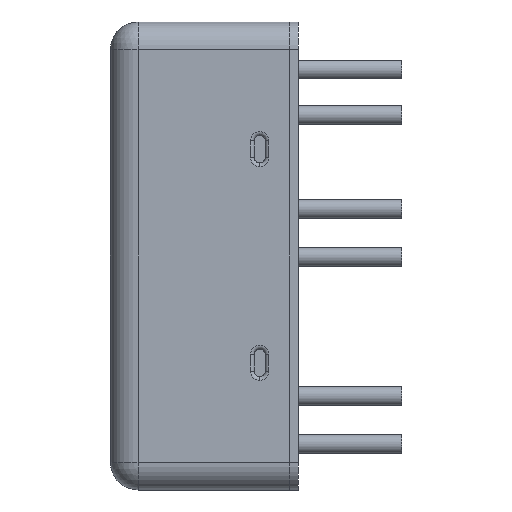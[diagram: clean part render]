
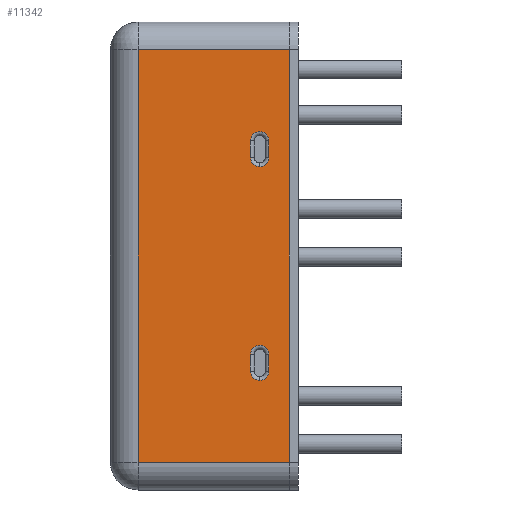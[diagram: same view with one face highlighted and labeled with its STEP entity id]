
A CAD part, left-side view. The second image highlights one B-rep face of the part: STEP entity #11342.
In plain terms, the highlighted planar face has unit normal (-1, 0, 0).
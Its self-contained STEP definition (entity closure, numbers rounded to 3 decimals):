
#34 = LINE ( 'NONE', #11098, #4327 ) ;
#42 = VERTEX_POINT ( 'NONE', #327 ) ;
#327 = CARTESIAN_POINT ( 'NONE',  ( -25.4, 7.1, -11.2 ) ) ;
#435 = LINE ( 'NONE', #12499, #10907 ) ;
#703 = DIRECTION ( 'NONE',  ( 1., 0., 0. ) ) ;
#884 = AXIS2_PLACEMENT_3D ( 'NONE', #5934, #703, #7835 ) ;
#906 = CARTESIAN_POINT ( 'NONE',  ( -25.4, 0., -6.25 ) ) ;
#1111 = VECTOR ( 'NONE', #9890, 1000. ) ;
#1141 = DIRECTION ( 'NONE',  ( 0., 0., -1. ) ) ;
#1446 = CIRCLE ( 'NONE', #7939, 0.5 ) ;
#1563 = VERTEX_POINT ( 'NONE', #5152 ) ;
#1591 = CARTESIAN_POINT ( 'NONE',  ( -25.4, 1., -6.25 ) ) ;
#1828 = AXIS2_PLACEMENT_3D ( 'NONE', #7616, #11558, #3800 ) ;
#2094 = VECTOR ( 'NONE', #9953, 1000. ) ;
#2151 = VECTOR ( 'NONE', #11993, 1000. ) ;
#2185 = EDGE_LOOP ( 'NONE', ( #6772, #12433, #6032, #5960 ) ) ;
#2303 = CARTESIAN_POINT ( 'NONE',  ( -25.4, 0., -5.35 ) ) ;
#2489 = EDGE_CURVE ( 'NONE', #4771, #11181, #5947, .T. ) ;
#2580 = CARTESIAN_POINT ( 'NONE',  ( -25.4, 0., -6.25 ) ) ;
#2589 = EDGE_CURVE ( 'NONE', #11552, #42, #12854, .T. ) ;
#2590 = EDGE_CURVE ( 'NONE', #3068, #9401, #4893, .T. ) ;
#2703 = PLANE ( 'NONE',  #6487 ) ;
#2842 = AXIS2_PLACEMENT_3D ( 'NONE', #6243, #11966, #1141 ) ;
#2969 = DIRECTION ( 'NONE',  ( 0., 0., 1. ) ) ;
#3043 = DIRECTION ( 'NONE',  ( 1., 0., 0. ) ) ;
#3067 = ORIENTED_EDGE ( 'NONE', *, *, #6967, .T. ) ;
#3068 = VERTEX_POINT ( 'NONE', #1591 ) ;
#3194 = AXIS2_PLACEMENT_3D ( 'NONE', #3270, #3409, #7158 ) ;
#3270 = CARTESIAN_POINT ( 'NONE',  ( -25.4, 0.5, 5.35 ) ) ;
#3347 = CARTESIAN_POINT ( 'NONE',  ( -25.4, -1.1, -11.2 ) ) ;
#3409 = DIRECTION ( 'NONE',  ( 1., 0., 0. ) ) ;
#3503 = DIRECTION ( 'NONE',  ( 0., 1., 0. ) ) ;
#3680 = DIRECTION ( 'NONE',  ( 1., 0., 0. ) ) ;
#3778 = LINE ( 'NONE', #12855, #2094 ) ;
#3800 = DIRECTION ( 'NONE',  ( 0., 0., -1. ) ) ;
#3811 = CARTESIAN_POINT ( 'NONE',  ( -25.4, 8.6, -12.7 ) ) ;
#3844 = EDGE_LOOP ( 'NONE', ( #4038, #7204, #5598, #3067, #11452 ) ) ;
#4038 = ORIENTED_EDGE ( 'NONE', *, *, #11196, .T. ) ;
#4051 = DIRECTION ( 'NONE',  ( 0., 0., -1. ) ) ;
#4099 = CIRCLE ( 'NONE', #2842, 0.5 ) ;
#4327 = VECTOR ( 'NONE', #2969, 1000. ) ;
#4471 = DIRECTION ( 'NONE',  ( 0., 0., -1. ) ) ;
#4630 = EDGE_CURVE ( 'NONE', #9401, #4771, #4099, .T. ) ;
#4725 = FACE_BOUND ( 'NONE', #6071, .T. ) ;
#4771 = VERTEX_POINT ( 'NONE', #2303 ) ;
#4865 = CARTESIAN_POINT ( 'NONE',  ( -25.4, 0.5, -6.75 ) ) ;
#4893 = LINE ( 'NONE', #8906, #9905 ) ;
#5075 = CARTESIAN_POINT ( 'NONE',  ( -25.4, 0.5, 5.35 ) ) ;
#5152 = CARTESIAN_POINT ( 'NONE',  ( -25.4, 0., 6.25 ) ) ;
#5269 = CIRCLE ( 'NONE', #884, 0.5 ) ;
#5598 = ORIENTED_EDGE ( 'NONE', *, *, #7482, .T. ) ;
#5650 = CARTESIAN_POINT ( 'NONE',  ( -25.4, -1.1, 11.2 ) ) ;
#5660 = ORIENTED_EDGE ( 'NONE', *, *, #2590, .T. ) ;
#5705 = DIRECTION ( 'NONE',  ( 0., 0., 1. ) ) ;
#5934 = CARTESIAN_POINT ( 'NONE',  ( -25.4, 0.5, -6.25 ) ) ;
#5947 = LINE ( 'NONE', #906, #2151 ) ;
#5960 = ORIENTED_EDGE ( 'NONE', *, *, #11709, .T. ) ;
#6032 = ORIENTED_EDGE ( 'NONE', *, *, #2589, .T. ) ;
#6071 = EDGE_LOOP ( 'NONE', ( #9983, #12814, #11582, #8034, #5660 ) ) ;
#6243 = CARTESIAN_POINT ( 'NONE',  ( -25.4, 0.5, -5.35 ) ) ;
#6288 = VERTEX_POINT ( 'NONE', #8074 ) ;
#6319 = DIRECTION ( 'NONE',  ( 1., 0., 0. ) ) ;
#6487 = AXIS2_PLACEMENT_3D ( 'NONE', #3811, #3680, #4051 ) ;
#6578 = CARTESIAN_POINT ( 'NONE',  ( -25.4, 0.5, 6.25 ) ) ;
#6772 = ORIENTED_EDGE ( 'NONE', *, *, #12711, .T. ) ;
#6815 = EDGE_CURVE ( 'NONE', #8493, #3068, #5269, .T. ) ;
#6967 = EDGE_CURVE ( 'NONE', #10712, #10419, #7781, .T. ) ;
#6986 = DIRECTION ( 'NONE',  ( 0., 0., -1. ) ) ;
#7000 = CARTESIAN_POINT ( 'NONE',  ( -25.4, 0., 5.35 ) ) ;
#7071 = FACE_BOUND ( 'NONE', #3844, .T. ) ;
#7158 = DIRECTION ( 'NONE',  ( 0., 0., -1. ) ) ;
#7204 = ORIENTED_EDGE ( 'NONE', *, *, #11754, .T. ) ;
#7482 = EDGE_CURVE ( 'NONE', #9838, #10712, #8860, .T. ) ;
#7616 = CARTESIAN_POINT ( 'NONE',  ( -25.4, 0.5, -6.25 ) ) ;
#7781 = CIRCLE ( 'NONE', #8005, 0.5 ) ;
#7835 = DIRECTION ( 'NONE',  ( 0., 0., -1. ) ) ;
#7844 = CARTESIAN_POINT ( 'NONE',  ( -25.4, 7.1, -12.7 ) ) ;
#7939 = AXIS2_PLACEMENT_3D ( 'NONE', #6578, #6319, #4471 ) ;
#8005 = AXIS2_PLACEMENT_3D ( 'NONE', #5075, #3043, #6986 ) ;
#8034 = ORIENTED_EDGE ( 'NONE', *, *, #6815, .T. ) ;
#8074 = CARTESIAN_POINT ( 'NONE',  ( -25.4, 1., 6.25 ) ) ;
#8493 = VERTEX_POINT ( 'NONE', #4865 ) ;
#8606 = VERTEX_POINT ( 'NONE', #3347 ) ;
#8678 = EDGE_CURVE ( 'NONE', #10419, #6288, #10700, .T. ) ;
#8781 = CARTESIAN_POINT ( 'NONE',  ( -25.4, 1., 5.35 ) ) ;
#8836 = VECTOR ( 'NONE', #5705, 1000. ) ;
#8860 = CIRCLE ( 'NONE', #3194, 0.5 ) ;
#8906 = CARTESIAN_POINT ( 'NONE',  ( -25.4, 1., -5.35 ) ) ;
#9401 = VERTEX_POINT ( 'NONE', #10151 ) ;
#9838 = VERTEX_POINT ( 'NONE', #10441 ) ;
#9890 = DIRECTION ( 'NONE',  ( 0., 0., -1. ) ) ;
#9905 = VECTOR ( 'NONE', #12916, 1000. ) ;
#9953 = DIRECTION ( 'NONE',  ( 0., -1., 0. ) ) ;
#9963 = EDGE_CURVE ( 'NONE', #11181, #8493, #11897, .T. ) ;
#9983 = ORIENTED_EDGE ( 'NONE', *, *, #4630, .T. ) ;
#10151 = CARTESIAN_POINT ( 'NONE',  ( -25.4, 1., -5.35 ) ) ;
#10419 = VERTEX_POINT ( 'NONE', #8781 ) ;
#10441 = CARTESIAN_POINT ( 'NONE',  ( -25.4, 0., 5.35 ) ) ;
#10574 = CARTESIAN_POINT ( 'NONE',  ( -25.4, 1., 6.25 ) ) ;
#10700 = LINE ( 'NONE', #10574, #8836 ) ;
#10712 = VERTEX_POINT ( 'NONE', #12702 ) ;
#10748 = DIRECTION ( 'NONE',  ( 0., 0., -1. ) ) ;
#10874 = LINE ( 'NONE', #7000, #11944 ) ;
#10907 = VECTOR ( 'NONE', #3503, 1000. ) ;
#11098 = CARTESIAN_POINT ( 'NONE',  ( -25.4, -1.1, -12.7 ) ) ;
#11181 = VERTEX_POINT ( 'NONE', #2580 ) ;
#11196 = EDGE_CURVE ( 'NONE', #6288, #1563, #1446, .T. ) ;
#11342 = ADVANCED_FACE ( 'NONE', ( #7071, #4725, #12820 ), #2703, .F. ) ;
#11452 = ORIENTED_EDGE ( 'NONE', *, *, #8678, .T. ) ;
#11552 = VERTEX_POINT ( 'NONE', #11600 ) ;
#11558 = DIRECTION ( 'NONE',  ( 1., 0., 0. ) ) ;
#11582 = ORIENTED_EDGE ( 'NONE', *, *, #9963, .T. ) ;
#11600 = CARTESIAN_POINT ( 'NONE',  ( -25.4, 7.1, 11.2 ) ) ;
#11709 = EDGE_CURVE ( 'NONE', #42, #8606, #3778, .T. ) ;
#11754 = EDGE_CURVE ( 'NONE', #1563, #9838, #10874, .T. ) ;
#11897 = CIRCLE ( 'NONE', #1828, 0.5 ) ;
#11944 = VECTOR ( 'NONE', #10748, 1000. ) ;
#11966 = DIRECTION ( 'NONE',  ( 1., 0., 0. ) ) ;
#11993 = DIRECTION ( 'NONE',  ( 0., 0., -1. ) ) ;
#12037 = EDGE_CURVE ( 'NONE', #12492, #11552, #435, .T. ) ;
#12433 = ORIENTED_EDGE ( 'NONE', *, *, #12037, .T. ) ;
#12492 = VERTEX_POINT ( 'NONE', #5650 ) ;
#12499 = CARTESIAN_POINT ( 'NONE',  ( -25.4, 8.6, 11.2 ) ) ;
#12702 = CARTESIAN_POINT ( 'NONE',  ( -25.4, 0.5, 4.85 ) ) ;
#12711 = EDGE_CURVE ( 'NONE', #8606, #12492, #34, .T. ) ;
#12814 = ORIENTED_EDGE ( 'NONE', *, *, #2489, .T. ) ;
#12820 = FACE_OUTER_BOUND ( 'NONE', #2185, .T. ) ;
#12854 = LINE ( 'NONE', #7844, #1111 ) ;
#12855 = CARTESIAN_POINT ( 'NONE',  ( -25.4, 8.6, -11.2 ) ) ;
#12916 = DIRECTION ( 'NONE',  ( 0., 0., 1. ) ) ;
